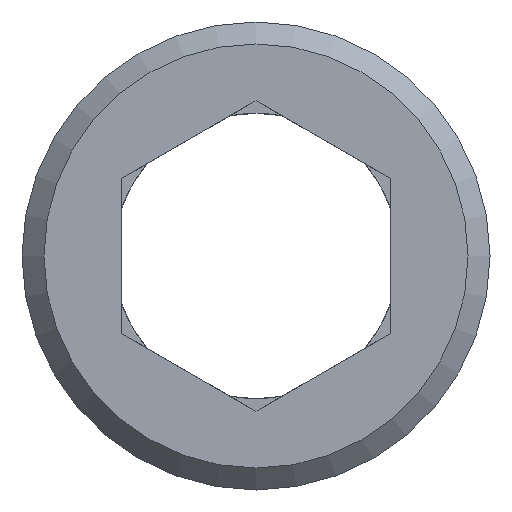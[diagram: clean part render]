
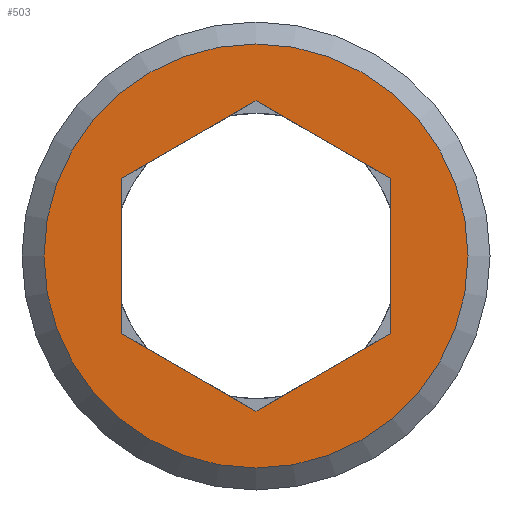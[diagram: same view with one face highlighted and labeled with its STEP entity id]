
A CAD part, front view. The second image highlights one B-rep face of the part: STEP entity #503.
In plain terms, the highlighted planar face has unit normal (0, -1, 0).
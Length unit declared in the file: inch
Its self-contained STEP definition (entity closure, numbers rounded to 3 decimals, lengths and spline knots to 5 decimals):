
#19=FACE_BOUND('',#85,.T.);
#52=FACE_OUTER_BOUND('',#84,.T.);
#84=EDGE_LOOP('',(#417));
#85=EDGE_LOOP('',(#418,#419,#420,#421,#422,#423));
#103=LINE('',#803,#139);
#107=LINE('',#809,#143);
#110=LINE('',#814,#146);
#113=LINE('',#819,#149);
#116=LINE('',#824,#152);
#119=LINE('',#828,#155);
#139=VECTOR('',#629,0.3937);
#143=VECTOR('',#635,0.3937);
#146=VECTOR('',#640,0.3937);
#149=VECTOR('',#645,0.3937);
#152=VECTOR('',#650,0.3937);
#155=VECTOR('',#655,0.3937);
#189=CIRCLE('',#572,0.295);
#217=VERTEX_POINT('',#801);
#218=VERTEX_POINT('',#802);
#219=VERTEX_POINT('',#808);
#220=VERTEX_POINT('',#813);
#221=VERTEX_POINT('',#818);
#222=VERTEX_POINT('',#823);
#234=VERTEX_POINT('',#873);
#262=EDGE_CURVE('',#217,#218,#103,.T.);
#266=EDGE_CURVE('',#219,#217,#107,.T.);
#269=EDGE_CURVE('',#220,#219,#110,.T.);
#272=EDGE_CURVE('',#221,#220,#113,.T.);
#275=EDGE_CURVE('',#222,#221,#116,.T.);
#278=EDGE_CURVE('',#218,#222,#119,.T.);
#300=EDGE_CURVE('',#234,#234,#189,.T.);
#417=ORIENTED_EDGE('',*,*,#300,.F.);
#418=ORIENTED_EDGE('',*,*,#275,.T.);
#419=ORIENTED_EDGE('',*,*,#272,.T.);
#420=ORIENTED_EDGE('',*,*,#269,.T.);
#421=ORIENTED_EDGE('',*,*,#266,.T.);
#422=ORIENTED_EDGE('',*,*,#262,.T.);
#423=ORIENTED_EDGE('',*,*,#278,.T.);
#476=PLANE('',#578);
#503=ADVANCED_FACE('',(#52,#19),#476,.T.);
#572=AXIS2_PLACEMENT_3D('',#874,#720,#721);
#578=AXIS2_PLACEMENT_3D('',#886,#734,#735);
#629=DIRECTION('',(-0.866,0.,0.5));
#635=DIRECTION('',(-0.866,0.,-0.5));
#640=DIRECTION('',(0.,0.,-1.));
#645=DIRECTION('',(0.866,0.,-0.5));
#650=DIRECTION('',(0.866,0.,0.5));
#655=DIRECTION('',(0.,0.,1.));
#720=DIRECTION('center_axis',(0.,1.,0.));
#721=DIRECTION('ref_axis',(0.,0.,1.));
#734=DIRECTION('center_axis',(0.,-1.,0.));
#735=DIRECTION('ref_axis',(0.,0.,-1.));
#801=CARTESIAN_POINT('',(0.,0.,-0.21593));
#802=CARTESIAN_POINT('',(-0.187,0.,-0.10796));
#803=CARTESIAN_POINT('',(-0.00626,0.,-0.21231));
#808=CARTESIAN_POINT('',(0.187,0.,-0.10796));
#809=CARTESIAN_POINT('',(0.09976,0.,-0.15833));
#813=CARTESIAN_POINT('',(0.187,0.,0.10796));
#814=CARTESIAN_POINT('',(0.187,0.,-0.03952));
#818=CARTESIAN_POINT('',(0.,0.,0.21593));
#819=CARTESIAN_POINT('',(0.08724,0.,0.16556));
#823=CARTESIAN_POINT('',(-0.187,0.,0.10796));
#824=CARTESIAN_POINT('',(-0.18074,0.,0.11158));
#828=CARTESIAN_POINT('',(-0.187,0.,-0.14748));
#873=CARTESIAN_POINT('',(0.,0.,-0.295));
#874=CARTESIAN_POINT('Origin',(0.,0.,0.));
#886=CARTESIAN_POINT('Origin',(0.,0.,-0.187));
